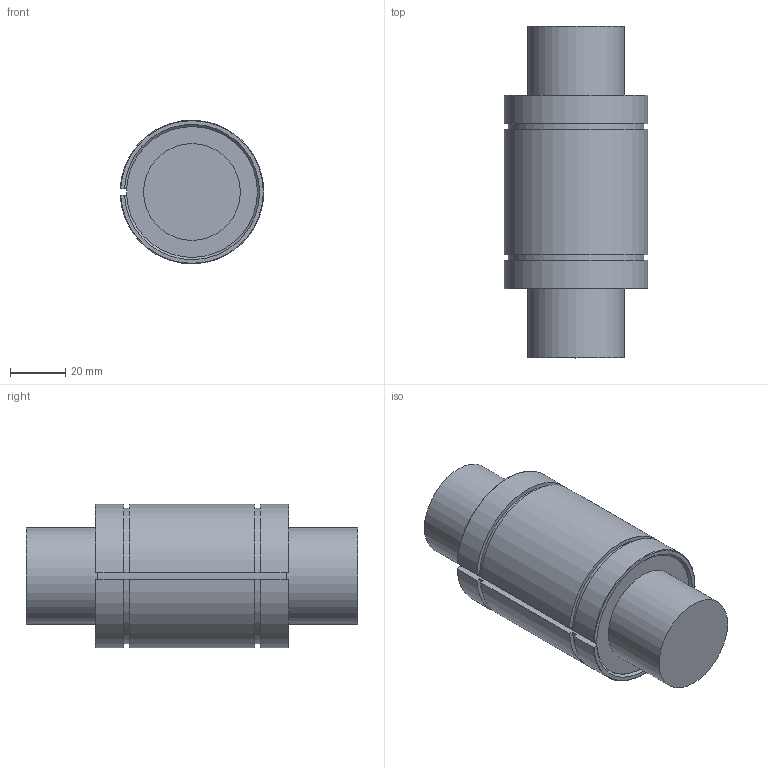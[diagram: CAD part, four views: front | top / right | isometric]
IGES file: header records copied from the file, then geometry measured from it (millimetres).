
Global section: file name: No Iges File Name specified; native system: Autodesk Inventor 2012; preprocessor: AutoDesk Inventor Iges Exporter R2012; author: user2; date: 20130206.101713; units: millimetre
Bounding box: 51.97 x 120 x 51.98 mm (x, y, z)
Volume: 193762.7 mm3; surface area: 22700.5 mm2
Topology: 1 solids, 1 shells, 26 faces, 64 edges, 42 vertices
Faces by surface type: plane 12, cylinder 8, revolution 4, torus 2
Full cylindrical faces by diameter (mm): 35 x2
